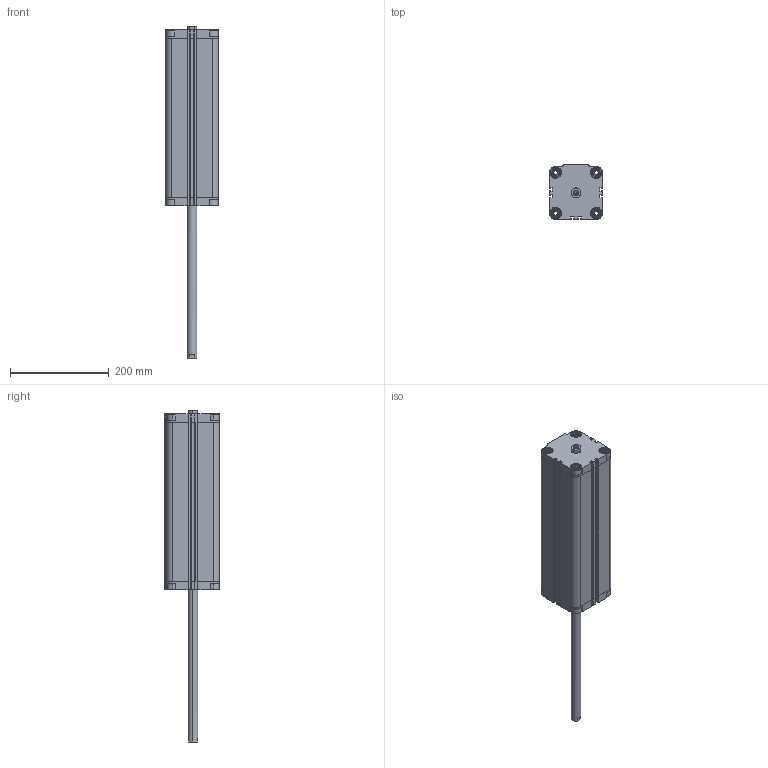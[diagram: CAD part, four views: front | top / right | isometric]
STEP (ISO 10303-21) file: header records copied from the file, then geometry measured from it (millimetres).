
FILE_DESCRIPTION (( 'STEP AP203' ), '1' );
FILE_NAME ('CDVU80-300F-P.STEP', '2020-07-24T18:42:07', ( '' ), ( '' ), 'SwSTEP 2.0', 'SolidWorks 2019', '' );
FILE_SCHEMA (( 'CONFIG_CONTROL_DESIGN' ));
Length unit declared in the file: millimetre
Products named in the file (1): CDVU80-300F-P
Bounding box: 107 x 111 x 672 mm (x, y, z)
Volume: 2457972.7 mm3; surface area: 415224.1 mm2
Topology: 2 solids, 2 shells, 670 faces, 1812 edges, 1188 vertices
Faces by surface type: plane 394, cylinder 212, cone 64
Entity records: 21267 total; most frequent: CARTESIAN_POINT 4239, ORIENTED_EDGE 3608, DIRECTION 3458, EDGE_CURVE 1804, VERTEX_POINT 1188, AXIS2_PLACEMENT_3D 1175, LINE 1108, VECTOR 1108
